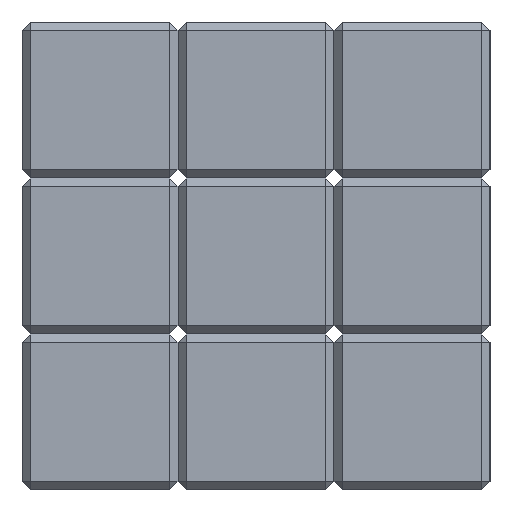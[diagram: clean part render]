
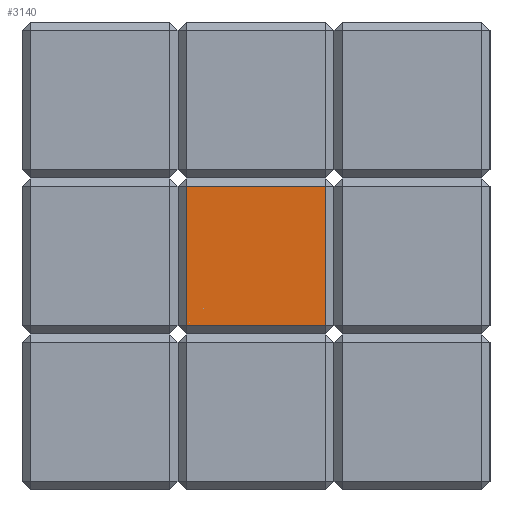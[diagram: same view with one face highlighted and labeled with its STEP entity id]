
A CAD part, left-side view. The second image highlights one B-rep face of the part: STEP entity #3140.
In plain terms, the highlighted planar face has unit normal (-1, 0, 0).
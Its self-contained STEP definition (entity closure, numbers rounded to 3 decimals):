
#3035=CARTESIAN_POINT('Vertex',(0.,54.8,68.202)) ;
#3065=CARTESIAN_POINT('Vertex',(0.,54.8,51.602)) ;
#3070=CARTESIAN_POINT('Line Origine',(0.,54.8,59.402)) ;
#3110=CARTESIAN_POINT('Axis2P3D Location',(0.,55.8,50.602)) ;
#3115=CARTESIAN_POINT('Line Origine',(0.,46.5,68.202)) ;
#3119=CARTESIAN_POINT('Vertex',(0.,38.2,68.202)) ;
#3122=CARTESIAN_POINT('Line Origine',(0.,46.5,51.602)) ;
#3126=CARTESIAN_POINT('Vertex',(0.,38.2,51.602)) ;
#3129=CARTESIAN_POINT('Line Origine',(0.,38.2,59.902)) ;
#3071=DIRECTION('Vector Direction',(0.,0.,1.)) ;
#3111=DIRECTION('Axis2P3D Direction',(-1.,-0.,0.)) ;
#3112=DIRECTION('Axis2P3D XDirection',(0.,-1.,0.)) ;
#3116=DIRECTION('Vector Direction',(0.,-1.,0.)) ;
#3123=DIRECTION('Vector Direction',(0.,-1.,0.)) ;
#3130=DIRECTION('Vector Direction',(0.,0.,1.)) ;
#3113=AXIS2_PLACEMENT_3D('Plane Axis2P3D',#3110,#3111,#3112) ;
#3135=ORIENTED_EDGE('',*,*,#3121,.F.) ;
#3136=ORIENTED_EDGE('',*,*,#3074,.F.) ;
#3137=ORIENTED_EDGE('',*,*,#3128,.T.) ;
#3138=ORIENTED_EDGE('',*,*,#3133,.T.) ;
#3072=VECTOR('Line Direction',#3071,1.) ;
#3117=VECTOR('Line Direction',#3116,1.) ;
#3124=VECTOR('Line Direction',#3123,1.) ;
#3131=VECTOR('Line Direction',#3130,1.) ;
#3140=ADVANCED_FACE('Cube.6\\Hauptk\X2\00F6\X0\rper',(#3139),#3114,.T.) ;
#3074=EDGE_CURVE('',#3066,#3036,#3073,.T.) ;
#3121=EDGE_CURVE('',#3036,#3120,#3118,.T.) ;
#3128=EDGE_CURVE('',#3066,#3127,#3125,.T.) ;
#3133=EDGE_CURVE('',#3127,#3120,#3132,.T.) ;
#3134=EDGE_LOOP('',(#3135,#3136,#3137,#3138)) ;
#3139=FACE_OUTER_BOUND('',#3134,.T.) ;
#3073=LINE('Line',#3070,#3072) ;
#3118=LINE('Line',#3115,#3117) ;
#3125=LINE('Line',#3122,#3124) ;
#3132=LINE('Line',#3129,#3131) ;
#3114=PLANE('',#3113) ;
#3036=VERTEX_POINT('',#3035) ;
#3066=VERTEX_POINT('',#3065) ;
#3120=VERTEX_POINT('',#3119) ;
#3127=VERTEX_POINT('',#3126) ;
